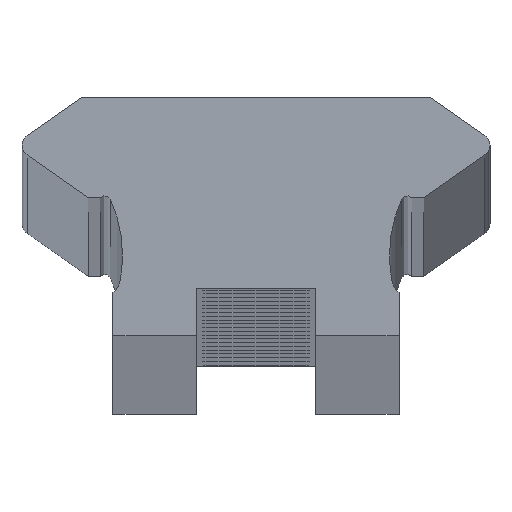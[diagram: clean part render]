
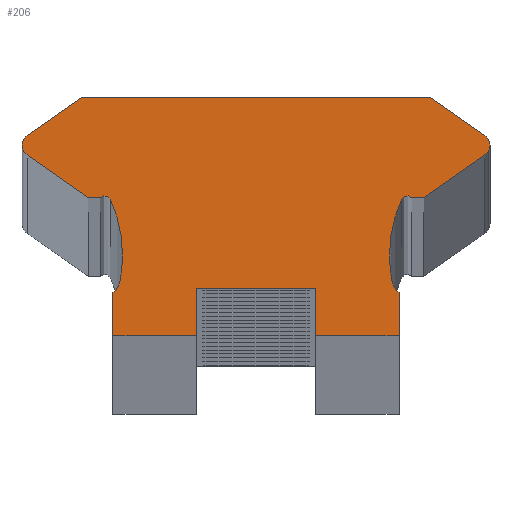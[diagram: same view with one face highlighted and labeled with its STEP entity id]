
A CAD part, top view. The second image highlights one B-rep face of the part: STEP entity #206.
In plain terms, the highlighted planar face has unit normal (0, 0, 1).
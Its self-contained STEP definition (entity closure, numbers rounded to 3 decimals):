
#206=ADVANCED_FACE('',(#534),#535,.T.);
#534=FACE_OUTER_BOUND('',#863,.T.);
#535=PLANE('',#864);
#863=EDGE_LOOP('',(#1868,#1869,#1870,#1871,#1872,#1873,#1874,#1875,#1876,#1877,#1878,#1879,#1880,#1881,#1882,#1883,#1884,#1885,#1886,#1887,#1888,#1889,#1890,#1891,#1892,#1893));
#864=AXIS2_PLACEMENT_3D('',#1894,#1895,#1896);
#1868=ORIENTED_EDGE('',*,*,#2194,.F.);
#1869=ORIENTED_EDGE('',*,*,#2254,.F.);
#1870=ORIENTED_EDGE('',*,*,#2251,.F.);
#1871=ORIENTED_EDGE('',*,*,#1929,.F.);
#1872=ORIENTED_EDGE('',*,*,#2249,.F.);
#1873=ORIENTED_EDGE('',*,*,#2246,.F.);
#1874=ORIENTED_EDGE('',*,*,#2243,.F.);
#1875=ORIENTED_EDGE('',*,*,#1931,.F.);
#1876=ORIENTED_EDGE('',*,*,#2242,.F.);
#1877=ORIENTED_EDGE('',*,*,#2238,.F.);
#1878=ORIENTED_EDGE('',*,*,#2235,.F.);
#1879=ORIENTED_EDGE('',*,*,#2232,.F.);
#1880=ORIENTED_EDGE('',*,*,#2229,.F.);
#1881=ORIENTED_EDGE('',*,*,#1937,.F.);
#1882=ORIENTED_EDGE('',*,*,#2227,.F.);
#1883=ORIENTED_EDGE('',*,*,#2224,.F.);
#1884=ORIENTED_EDGE('',*,*,#2221,.F.);
#1885=ORIENTED_EDGE('',*,*,#2218,.F.);
#1886=ORIENTED_EDGE('',*,*,#2215,.F.);
#1887=ORIENTED_EDGE('',*,*,#2212,.F.);
#1888=ORIENTED_EDGE('',*,*,#2209,.F.);
#1889=ORIENTED_EDGE('',*,*,#2206,.F.);
#1890=ORIENTED_EDGE('',*,*,#2203,.F.);
#1891=ORIENTED_EDGE('',*,*,#1939,.F.);
#1892=ORIENTED_EDGE('',*,*,#2202,.F.);
#1893=ORIENTED_EDGE('',*,*,#2198,.F.);
#1894=CARTESIAN_POINT('',(0.,5.405,1886.0));
#1895=DIRECTION('',(0.0,0.0,1.0));
#1896=DIRECTION('',(1.0,0.0,0.0));
#1929=EDGE_CURVE('',#2261,#2257,#2263,.T.);
#1931=EDGE_CURVE('',#2264,#2267,#2268,.T.);
#1937=EDGE_CURVE('',#2277,#2273,#2279,.T.);
#1939=EDGE_CURVE('',#2280,#2283,#2284,.T.);
#2194=EDGE_CURVE('',#2708,#2709,#2710,.T.);
#2198=EDGE_CURVE('',#2709,#2716,#2717,.T.);
#2202=EDGE_CURVE('',#2716,#2280,#2722,.T.);
#2203=EDGE_CURVE('',#2283,#2723,#2724,.T.);
#2206=EDGE_CURVE('',#2723,#2728,#2729,.T.);
#2209=EDGE_CURVE('',#2728,#2733,#2734,.T.);
#2212=EDGE_CURVE('',#2733,#2738,#2739,.T.);
#2215=EDGE_CURVE('',#2738,#2743,#2744,.T.);
#2218=EDGE_CURVE('',#2743,#2748,#2749,.T.);
#2221=EDGE_CURVE('',#2748,#2753,#2754,.T.);
#2224=EDGE_CURVE('',#2753,#2758,#2759,.T.);
#2227=EDGE_CURVE('',#2758,#2277,#2763,.T.);
#2229=EDGE_CURVE('',#2273,#2765,#2766,.T.);
#2232=EDGE_CURVE('',#2765,#2770,#2771,.T.);
#2235=EDGE_CURVE('',#2770,#2775,#2776,.T.);
#2238=EDGE_CURVE('',#2775,#2780,#2781,.T.);
#2242=EDGE_CURVE('',#2780,#2264,#2786,.T.);
#2243=EDGE_CURVE('',#2267,#2787,#2788,.T.);
#2246=EDGE_CURVE('',#2787,#2792,#2793,.T.);
#2249=EDGE_CURVE('',#2792,#2261,#2797,.T.);
#2251=EDGE_CURVE('',#2257,#2799,#2800,.T.);
#2254=EDGE_CURVE('',#2799,#2708,#2804,.T.);
#2257=VERTEX_POINT('',#2807);
#2261=VERTEX_POINT('',#2812);
#2263=CIRCLE('',#2815,0.5);
#2264=VERTEX_POINT('',#2816);
#2267=VERTEX_POINT('',#2820);
#2268=CIRCLE('',#2821,0.5);
#2273=VERTEX_POINT('',#2827);
#2277=VERTEX_POINT('',#2832);
#2279=CIRCLE('',#2835,5.653);
#2280=VERTEX_POINT('',#2836);
#2283=VERTEX_POINT('',#2840);
#2284=CIRCLE('',#2841,5.653);
#2708=VERTEX_POINT('',#3350);
#2709=VERTEX_POINT('',#3351);
#2710=LINE('',#3352,#3353);
#2716=VERTEX_POINT('',#3362);
#2717=CIRCLE('',#3363,0.253);
#2722=CIRCLE('',#3369,5.653);
#2723=VERTEX_POINT('',#3370);
#2724=CIRCLE('',#3371,0.886);
#2728=VERTEX_POINT('',#3376);
#2729=LINE('',#3377,#3378);
#2733=VERTEX_POINT('',#3384);
#2734=LINE('',#3385,#3386);
#2738=VERTEX_POINT('',#3392);
#2739=LINE('',#3393,#3394);
#2743=VERTEX_POINT('',#3400);
#2744=LINE('',#3401,#3402);
#2748=VERTEX_POINT('',#3408);
#2749=LINE('',#3409,#3410);
#2753=VERTEX_POINT('',#3416);
#2754=LINE('',#3417,#3418);
#2758=VERTEX_POINT('',#3424);
#2759=LINE('',#3425,#3426);
#2763=CIRCLE('',#3432,0.886);
#2765=VERTEX_POINT('',#3434);
#2766=CIRCLE('',#3435,5.653);
#2770=VERTEX_POINT('',#3440);
#2771=CIRCLE('',#3441,0.253);
#2775=VERTEX_POINT('',#3446);
#2776=LINE('',#3447,#3448);
#2780=VERTEX_POINT('',#3454);
#2781=LINE('',#3455,#3456);
#2786=CIRCLE('',#3463,0.5);
#2787=VERTEX_POINT('',#3464);
#2788=LINE('',#3465,#3466);
#2792=VERTEX_POINT('',#3472);
#2793=LINE('',#3473,#3474);
#2797=LINE('',#3480,#3481);
#2799=VERTEX_POINT('',#3484);
#2800=CIRCLE('',#3485,0.5);
#2804=LINE('',#3490,#3491);
#2807=CARTESIAN_POINT('',(9.813,8.,1886.0));
#2812=CARTESIAN_POINT('',(9.6,8.41,1886.0));
#2815=AXIS2_PLACEMENT_3D('',#3499,#3500,#3501);
#2816=CARTESIAN_POINT('',(-9.813,8.,1886.0));
#2820=CARTESIAN_POINT('',(-9.6,8.41,1886.0));
#2821=AXIS2_PLACEMENT_3D('',#3503,#3504,#3505);
#2827=CARTESIAN_POINT('',(-5.6,3.398,1886.0));
#2832=CARTESIAN_POINT('',(-5.701,2.335,1886.0));
#2835=AXIS2_PLACEMENT_3D('',#3515,#3516,#3517);
#2836=CARTESIAN_POINT('',(5.6,3.398,1886.0));
#2840=CARTESIAN_POINT('',(5.701,2.335,1886.0));
#2841=AXIS2_PLACEMENT_3D('',#3519,#3520,#3521);
#3350=CARTESIAN_POINT('',(7.029,5.79,1886.0));
#3351=CARTESIAN_POINT('',(6.525,5.79,1886.0));
#3352=CARTESIAN_POINT('',(6.525,5.79,1886.0));
#3353=VECTOR('',#4114,1.0);
#3362=CARTESIAN_POINT('',(6.108,5.741,1886.0));
#3363=AXIS2_PLACEMENT_3D('',#4118,#4119,#4120);
#3369=AXIS2_PLACEMENT_3D('',#4128,#4129,#4130);
#3370=CARTESIAN_POINT('',(6.0,1.809,1886.0));
#3371=AXIS2_PLACEMENT_3D('',#4131,#4132,#4133);
#3376=CARTESIAN_POINT('',(6.0,0.0,1886.0));
#3377=CARTESIAN_POINT('',(6.0,0.0,1886.0));
#3378=VECTOR('',#4138,1.0);
#3384=CARTESIAN_POINT('',(2.5,0.0,1886.0));
#3385=CARTESIAN_POINT('',(2.5,0.0,1886.0));
#3386=VECTOR('',#4141,1.0);
#3392=CARTESIAN_POINT('',(2.5,2.0,1886.0));
#3393=CARTESIAN_POINT('',(2.5,2.0,1886.0));
#3394=VECTOR('',#4144,1.0);
#3400=CARTESIAN_POINT('',(-2.5,2.0,1886.0));
#3401=CARTESIAN_POINT('',(-2.5,2.0,1886.0));
#3402=VECTOR('',#4147,1.0);
#3408=CARTESIAN_POINT('',(-2.5,0.0,1886.0));
#3409=CARTESIAN_POINT('',(-2.5,0.0,1886.0));
#3410=VECTOR('',#4150,1.0);
#3416=CARTESIAN_POINT('',(-6.0,0.0,1886.0));
#3417=CARTESIAN_POINT('',(-6.0,0.0,1886.0));
#3418=VECTOR('',#4153,1.0);
#3424=CARTESIAN_POINT('',(-6.0,1.809,1886.0));
#3425=CARTESIAN_POINT('',(-6.0,1.809,1886.0));
#3426=VECTOR('',#4156,1.0);
#3432=AXIS2_PLACEMENT_3D('',#4159,#4160,#4161);
#3434=CARTESIAN_POINT('',(-6.108,5.741,1886.0));
#3435=AXIS2_PLACEMENT_3D('',#4165,#4166,#4167);
#3440=CARTESIAN_POINT('',(-6.525,5.79,1886.0));
#3441=AXIS2_PLACEMENT_3D('',#4172,#4173,#4174);
#3446=CARTESIAN_POINT('',(-7.029,5.79,1886.0));
#3447=CARTESIAN_POINT('',(-7.029,5.79,1886.0));
#3448=VECTOR('',#4179,1.0);
#3454=CARTESIAN_POINT('',(-9.6,7.59,1886.0));
#3455=CARTESIAN_POINT('',(-9.6,7.59,1886.0));
#3456=VECTOR('',#4182,1.0);
#3463=AXIS2_PLACEMENT_3D('',#4188,#4189,#4190);
#3464=CARTESIAN_POINT('',(-7.329,10.0,1886.0));
#3465=CARTESIAN_POINT('',(-7.329,10.0,1886.0));
#3466=VECTOR('',#4191,1.0);
#3472=CARTESIAN_POINT('',(7.329,10.0,1886.0));
#3473=CARTESIAN_POINT('',(7.329,10.0,1886.0));
#3474=VECTOR('',#4194,1.0);
#3480=CARTESIAN_POINT('',(9.6,8.41,1886.0));
#3481=VECTOR('',#4197,1.0);
#3484=CARTESIAN_POINT('',(9.6,7.59,1886.0));
#3485=AXIS2_PLACEMENT_3D('',#4199,#4200,#4201);
#3490=CARTESIAN_POINT('',(7.029,5.79,1886.0));
#3491=VECTOR('',#4206,1.0);
#3499=CARTESIAN_POINT('',(9.313,8.,1886.0));
#3500=DIRECTION('',(0.0,0.0,-1.0));
#3501=DIRECTION('',(1.0,0.0,0.0));
#3503=CARTESIAN_POINT('',(-9.313,8.,1886.0));
#3504=DIRECTION('',(0.0,0.0,-1.0));
#3505=DIRECTION('',(1.0,0.0,0.0));
#3515=CARTESIAN_POINT('',(-11.254,3.398,1886.0));
#3516=DIRECTION('',(0.0,0.0,1.0));
#3517=DIRECTION('',(1.0,0.0,0.0));
#3519=CARTESIAN_POINT('',(11.254,3.398,1886.0));
#3520=DIRECTION('',(0.0,0.0,1.0));
#3521=DIRECTION('',(1.0,0.0,0.0));
#4114=DIRECTION('',(-1.0,-0.0,-0.0));
#4118=CARTESIAN_POINT('',(6.333,5.626,1886.0));
#4119=DIRECTION('',(0.0,0.0,1.0));
#4120=DIRECTION('',(1.0,0.0,0.0));
#4128=CARTESIAN_POINT('',(11.254,3.398,1886.0));
#4129=DIRECTION('',(0.0,0.0,1.0));
#4130=DIRECTION('',(1.0,0.0,0.0));
#4131=CARTESIAN_POINT('',(6.574,2.483,1886.0));
#4132=DIRECTION('',(0.0,0.0,1.0));
#4133=DIRECTION('',(1.0,0.0,0.0));
#4138=DIRECTION('',(-0.0,-1.0,-0.0));
#4141=DIRECTION('',(-1.0,-0.0,-0.0));
#4144=DIRECTION('',(0.0,1.0,0.0));
#4147=DIRECTION('',(-1.0,-0.0,-0.0));
#4150=DIRECTION('',(-0.0,-1.0,-0.0));
#4153=DIRECTION('',(-1.0,-0.0,-0.0));
#4156=DIRECTION('',(0.0,1.0,0.0));
#4159=CARTESIAN_POINT('',(-6.574,2.483,1886.0));
#4160=DIRECTION('',(0.0,0.0,1.0));
#4161=DIRECTION('',(1.0,0.0,0.0));
#4165=CARTESIAN_POINT('',(-11.254,3.398,1886.0));
#4166=DIRECTION('',(0.0,0.0,1.0));
#4167=DIRECTION('',(1.0,0.0,0.0));
#4172=CARTESIAN_POINT('',(-6.333,5.626,1886.0));
#4173=DIRECTION('',(0.0,0.0,1.0));
#4174=DIRECTION('',(1.0,0.0,0.0));
#4179=DIRECTION('',(-1.0,-0.0,-0.0));
#4182=DIRECTION('',(-0.819,0.574,0.0));
#4188=CARTESIAN_POINT('',(-9.313,8.,1886.0));
#4189=DIRECTION('',(0.0,0.0,-1.0));
#4190=DIRECTION('',(1.0,0.0,0.0));
#4191=DIRECTION('',(0.819,0.574,0.0));
#4194=DIRECTION('',(1.0,0.0,0.0));
#4197=DIRECTION('',(0.819,-0.574,0.0));
#4199=CARTESIAN_POINT('',(9.313,8.,1886.0));
#4200=DIRECTION('',(0.0,0.0,-1.0));
#4201=DIRECTION('',(1.0,0.0,0.0));
#4206=DIRECTION('',(-0.819,-0.574,-0.0));
